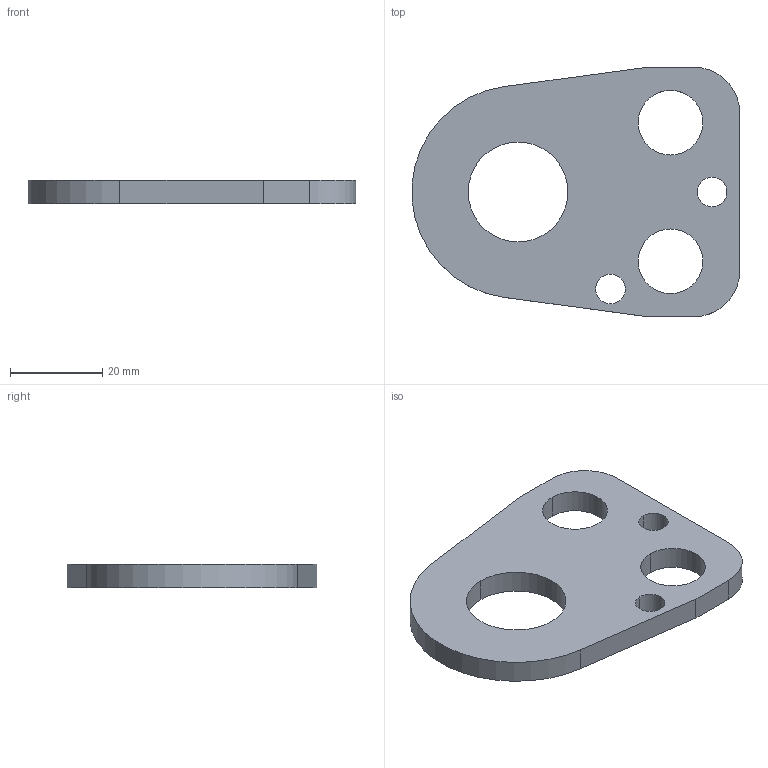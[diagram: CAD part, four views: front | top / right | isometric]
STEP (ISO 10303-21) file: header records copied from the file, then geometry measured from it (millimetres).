
FILE_DESCRIPTION(/* description */ (''),/* implementation_level */ '2;1');
FILE_NAME(/* name */ '3d_bdc32_03367_r00.stp',/* time_stamp */ '2011-01-10T14:17:24+09:00',/* author */ ('MISUMI'),/* organization */ (''),/* preprocessor_version */ 'ST-DEVELOPER v11',/* originating_system */ 'UGS - NX 5.0',/* authorisation */ '');
FILE_SCHEMA (('CONFIG_CONTROL_DESIGN'));
Length unit declared in the file: millimetre
Products named in the file (1): 3d_bdc32_03367_r00
Bounding box: 70.92 x 54 x 5 mm (x, y, z)
Volume: 12678.4 mm3; surface area: 7122.7 mm2
Topology: 1 solids, 1 shells, 20 faces, 54 edges, 36 vertices
Faces by surface type: cylinder 13, plane 7
Entity records: 750 total; most frequent: DIRECTION 122, CARTESIAN_POINT 111, ORIENTED_EDGE 108, EDGE_CURVE 54, AXIS2_PLACEMENT_3D 47, VERTEX_POINT 36, EDGE_LOOP 30, LINE 28
